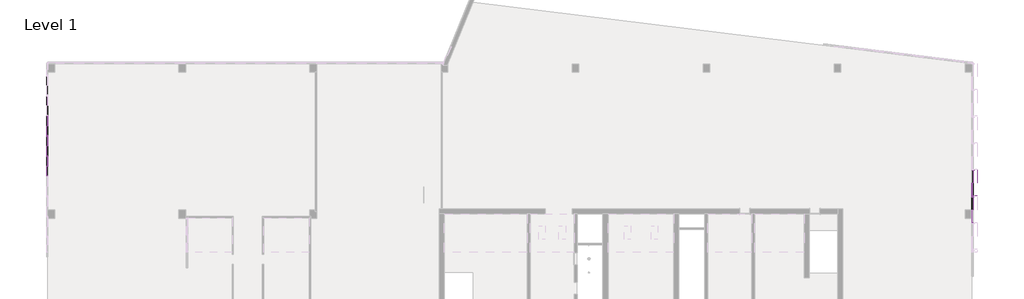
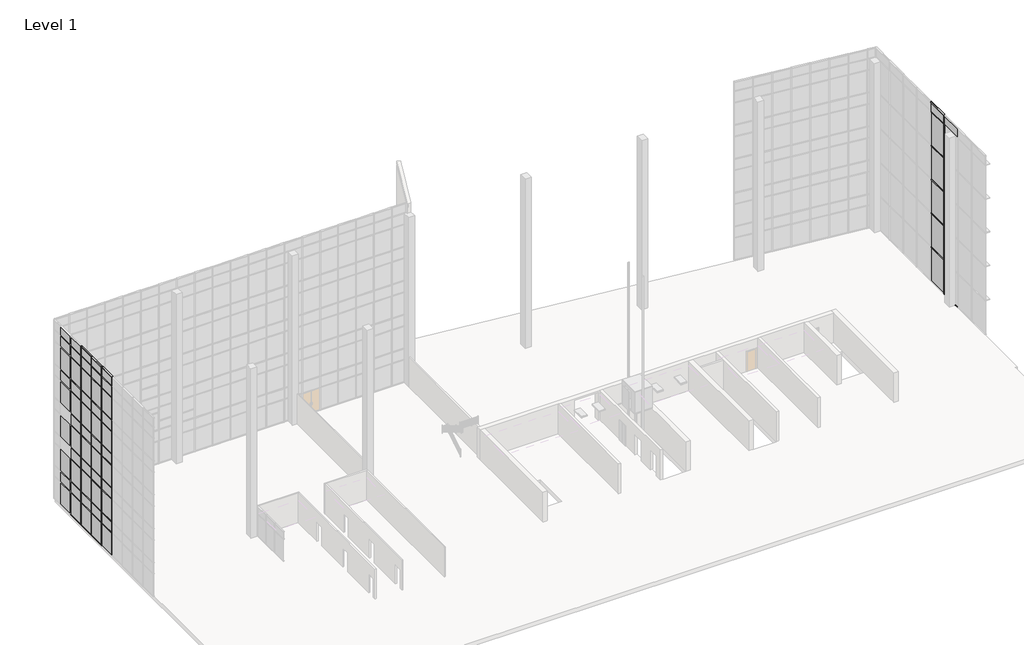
# One storey, part 9 of 23: 69 members, 60 plates.
"""IFC4 building model written with IfcOpenShell, lengths in millimetres."""

from ifc_helpers import new_model, si_unit, origin, place, context, project, spatial, transform, mapped, element, save
from components import member_4178592a, member_a26b4311, member_f92b8aa2, member_810865a4, member_6d5c3e5e, member_90793d7c, member_64b167af, member_9764dd38, system_panel_glazed_14c75400, system_panel_glazed_bb983545, system_panel_solid_5dfe6f83, system_panel_solid_e25e2004, system_panel_solid_b7551183, system_panel_solid_a8b18003

model = new_model("IFC4")

# Units and contexts
model_context = context("Model", 3, world=origin())
ifc_project = project(units=[si_unit("LENGTHUNIT", "METRE", prefix="MILLI")], contexts=[model_context])

# Site, building, storey
site = spatial("IfcSite", under=ifc_project)
building = spatial("IfcBuilding", under=site)
storey = spatial("IfcBuildingStorey", under=building, Name="Level 1", Elevation=0.0)

# Members
placement = place(None, origin())
member_shape = member_4178592a(model_context)
element("IfcMember", 1, ObjectType="Quad Corner Mullion : 5\" x 5\" Quad Corner", at=placement, inside=storey, context=model_context, shape_type="MappedRepresentation", body=[
    mapped(member_shape, transform((15106.8054088, -2083.3335112, 19304.0), x_axis=(0.0, 0.0, 1.0), y_axis=(-1.0, 0.0, 0.0), z_axis=(0.0, -1.0, 0.0))),
])
element("IfcMember", 2, ObjectType="Quad Corner Mullion : 5\" x 5\" Quad Corner", at=placement, inside=storey, context=model_context, shape_type="MappedRepresentation", body=[
    mapped(member_shape, transform((15106.8054088, -2146.8335112, 0.0), x_axis=(0.0, 0.0, -1.0), y_axis=(-1.0, 0.0, 0.0), z_axis=(0.0, 1.0, 0.0))),
])
member_2_shape = member_a26b4311(model_context)
element("IfcMember", 3, ObjectType="Rectangular Mullion : 2.5\" x 18\" rectangular", at=placement, inside=storey, context=model_context, shape_type="MappedRepresentation", body=[
    mapped(member_2_shape, transform((15106.8054088, -2083.3335112, 3666.6228811), x_axis=(0.0, 0.0, 1.0), y_axis=(-1.0, 0.0, 0.0), z_axis=(0.0, -1.0, 0.0))),
])
element("IfcMember", 4, ObjectType="Rectangular Mullion : 2.5\" x 18\" rectangular", at=placement, inside=storey, context=model_context, shape_type="MappedRepresentation", body=[
    mapped(member_2_shape, transform((15106.8054088, -2083.3335112, 7324.2228811), x_axis=(0.0, 0.0, 1.0), y_axis=(-1.0, 0.0, 0.0), z_axis=(0.0, -1.0, 0.0))),
])
element("IfcMember", 5, ObjectType="Rectangular Mullion : 2.5\" x 18\" rectangular", at=placement, inside=storey, context=model_context, shape_type="MappedRepresentation", body=[
    mapped(member_2_shape, transform((15106.8054088, -2083.3335112, 10981.8228811), x_axis=(0.0, 0.0, 1.0), y_axis=(-1.0, 0.0, 0.0), z_axis=(0.0, -1.0, 0.0))),
])
element("IfcMember", 6, ObjectType="Rectangular Mullion : 2.5\" x 18\" rectangular", at=placement, inside=storey, context=model_context, shape_type="MappedRepresentation", body=[
    mapped(member_2_shape, transform((15106.8054088, -2083.3335112, 14639.4228811), x_axis=(0.0, 0.0, 1.0), y_axis=(-1.0, 0.0, 0.0), z_axis=(0.0, -1.0, 0.0))),
])
element("IfcMember", 7, ObjectType="Rectangular Mullion : 2.5\" x 18\" rectangular", at=placement, inside=storey, context=model_context, shape_type="MappedRepresentation", body=[
    mapped(member_2_shape, transform((15106.8054088, -2083.3335112, 18297.0228811), x_axis=(0.0, 0.0, 1.0), y_axis=(-1.0, 0.0, 0.0), z_axis=(0.0, -1.0, 0.0))),
])
member_3_shape = member_f92b8aa2(model_context)
element("IfcMember", 8, ObjectType="Rectangular Mullion : 2.5\" x 5\" rectangular", at=placement, inside=storey, context=model_context, shape_type="MappedRepresentation", body=[
    mapped(member_3_shape, transform((-68724.2599961, 1546.8896508, 18288.0), x_axis=(0.0, 1.0, 0.0), y_axis=(1.0, 0.0, 0.0), z_axis=(0.0, 0.0, -1.0))),
])
element("IfcMember", 9, ObjectType="Rectangular Mullion : 2.5\" x 5\" rectangular", at=placement, inside=storey, context=model_context, shape_type="MappedRepresentation", body=[
    mapped(member_3_shape, transform((-68724.2599961, 3375.6896508, 18288.0), x_axis=(0.0, 1.0, 0.0), y_axis=(1.0, 0.0, 0.0), z_axis=(0.0, 0.0, -1.0))),
])
element("IfcMember", 10, ObjectType="Rectangular Mullion : 2.5\" x 5\" rectangular", at=placement, inside=storey, context=model_context, shape_type="MappedRepresentation", body=[
    mapped(member_3_shape, transform((-68724.2599961, 5204.4896508, 18288.0), x_axis=(0.0, 1.0, 0.0), y_axis=(1.0, 0.0, 0.0), z_axis=(0.0, 0.0, -1.0))),
])
member_4_shape = member_810865a4(model_context)
element("IfcMember", 11, ObjectType="Rectangular Mullion : 2.5\" x 5\" rectangular", at=placement, inside=storey, context=model_context, shape_type="MappedRepresentation", body=[
    mapped(member_4_shape, transform((15106.8054088, -2115.0835112, 3666.6228811), x_axis=(0.0, -1.0, 0.0), y_axis=(-1.0, 0.0, 0.0), z_axis=(0.0, 0.0, -1.0))),
])
element("IfcMember", 12, ObjectType="Rectangular Mullion : 2.5\" x 5\" rectangular", at=placement, inside=storey, context=model_context, shape_type="MappedRepresentation", body=[
    mapped(member_4_shape, transform((15106.8054088, -2115.0835112, 7324.2228811), x_axis=(0.0, -1.0, 0.0), y_axis=(-1.0, 0.0, 0.0), z_axis=(0.0, 0.0, -1.0))),
])
element("IfcMember", 13, ObjectType="Rectangular Mullion : 2.5\" x 5\" rectangular", at=placement, inside=storey, context=model_context, shape_type="MappedRepresentation", body=[
    mapped(member_4_shape, transform((15106.8054088, -2115.0835112, 10981.8228811), x_axis=(0.0, -1.0, 0.0), y_axis=(-1.0, 0.0, 0.0), z_axis=(0.0, 0.0, -1.0))),
])
element("IfcMember", 14, ObjectType="Rectangular Mullion : 2.5\" x 5\" rectangular", at=placement, inside=storey, context=model_context, shape_type="MappedRepresentation", body=[
    mapped(member_4_shape, transform((15106.8054088, -2115.0835112, 14639.4228811), x_axis=(0.0, -1.0, 0.0), y_axis=(-1.0, 0.0, 0.0), z_axis=(0.0, 0.0, -1.0))),
])
element("IfcMember", 15, ObjectType="Rectangular Mullion : 2.5\" x 5\" rectangular", at=placement, inside=storey, context=model_context, shape_type="MappedRepresentation", body=[
    mapped(member_4_shape, transform((-68724.2599961, 1546.8896508, 3657.6), x_axis=(0.0, 1.0, 0.0), y_axis=(1.0, 0.0, 0.0), z_axis=(0.0, 0.0, -1.0))),
])
element("IfcMember", 16, ObjectType="Rectangular Mullion : 2.5\" x 5\" rectangular", at=placement, inside=storey, context=model_context, shape_type="MappedRepresentation", body=[
    mapped(member_4_shape, transform((-68724.2599961, 3375.6896508, 3657.6), x_axis=(0.0, 1.0, 0.0), y_axis=(1.0, 0.0, 0.0), z_axis=(0.0, 0.0, -1.0))),
])
element("IfcMember", 17, ObjectType="Rectangular Mullion : 2.5\" x 5\" rectangular", at=placement, inside=storey, context=model_context, shape_type="MappedRepresentation", body=[
    mapped(member_4_shape, transform((-68724.2599961, 5204.4896508, 3657.6), x_axis=(0.0, 1.0, 0.0), y_axis=(1.0, 0.0, 0.0), z_axis=(0.0, 0.0, -1.0))),
])
element("IfcMember", 18, ObjectType="Rectangular Mullion : 2.5\" x 5\" rectangular", at=placement, inside=storey, context=model_context, shape_type="MappedRepresentation", body=[
    mapped(member_4_shape, transform((-68724.2599961, 1546.8896508, 7315.2), x_axis=(0.0, 1.0, 0.0), y_axis=(1.0, 0.0, 0.0), z_axis=(0.0, 0.0, -1.0))),
])
element("IfcMember", 19, ObjectType="Rectangular Mullion : 2.5\" x 5\" rectangular", at=placement, inside=storey, context=model_context, shape_type="MappedRepresentation", body=[
    mapped(member_4_shape, transform((-68724.2599961, 3375.6896508, 7315.2), x_axis=(0.0, 1.0, 0.0), y_axis=(1.0, 0.0, 0.0), z_axis=(0.0, 0.0, -1.0))),
])
element("IfcMember", 20, ObjectType="Rectangular Mullion : 2.5\" x 5\" rectangular", at=placement, inside=storey, context=model_context, shape_type="MappedRepresentation", body=[
    mapped(member_4_shape, transform((-68724.2599961, 5204.4896508, 7315.2), x_axis=(0.0, 1.0, 0.0), y_axis=(1.0, 0.0, 0.0), z_axis=(0.0, 0.0, -1.0))),
])
element("IfcMember", 21, ObjectType="Rectangular Mullion : 2.5\" x 5\" rectangular", at=placement, inside=storey, context=model_context, shape_type="MappedRepresentation", body=[
    mapped(member_4_shape, transform((-68724.2599961, 1546.8896508, 10972.8), x_axis=(0.0, 1.0, 0.0), y_axis=(1.0, 0.0, 0.0), z_axis=(0.0, 0.0, -1.0))),
])
element("IfcMember", 22, ObjectType="Rectangular Mullion : 2.5\" x 5\" rectangular", at=placement, inside=storey, context=model_context, shape_type="MappedRepresentation", body=[
    mapped(member_4_shape, transform((-68724.2599961, 3375.6896508, 10972.8), x_axis=(0.0, 1.0, 0.0), y_axis=(1.0, 0.0, 0.0), z_axis=(0.0, 0.0, -1.0))),
])
element("IfcMember", 23, ObjectType="Rectangular Mullion : 2.5\" x 5\" rectangular", at=placement, inside=storey, context=model_context, shape_type="MappedRepresentation", body=[
    mapped(member_4_shape, transform((-68724.2599961, 5204.4896508, 10972.8), x_axis=(0.0, 1.0, 0.0), y_axis=(1.0, 0.0, 0.0), z_axis=(0.0, 0.0, -1.0))),
])
element("IfcMember", 24, ObjectType="Rectangular Mullion : 2.5\" x 5\" rectangular", at=placement, inside=storey, context=model_context, shape_type="MappedRepresentation", body=[
    mapped(member_4_shape, transform((-68724.2599961, 1546.8896508, 14630.4), x_axis=(0.0, 1.0, 0.0), y_axis=(1.0, 0.0, 0.0), z_axis=(0.0, 0.0, -1.0))),
])
element("IfcMember", 25, ObjectType="Rectangular Mullion : 2.5\" x 5\" rectangular", at=placement, inside=storey, context=model_context, shape_type="MappedRepresentation", body=[
    mapped(member_4_shape, transform((-68724.2599961, 3375.6896508, 14630.4), x_axis=(0.0, 1.0, 0.0), y_axis=(1.0, 0.0, 0.0), z_axis=(0.0, 0.0, -1.0))),
])
element("IfcMember", 26, ObjectType="Rectangular Mullion : 2.5\" x 5\" rectangular", at=placement, inside=storey, context=model_context, shape_type="MappedRepresentation", body=[
    mapped(member_4_shape, transform((-68724.2599961, 5204.4896508, 14630.4), x_axis=(0.0, 1.0, 0.0), y_axis=(1.0, 0.0, 0.0), z_axis=(0.0, 0.0, -1.0))),
])
member_5_shape = member_6d5c3e5e(model_context)
element("IfcMember", 27, ObjectType="Rectangular Mullion : 2.5\" x 5\" rectangular", at=placement, inside=storey, context=model_context, shape_type="MappedRepresentation", body=[
    mapped(member_5_shape, transform((-68724.2599961, 1515.1396508, 19304.0), x_axis=(0.0, 0.0, 1.0), y_axis=(1.0, 0.0, 0.0), z_axis=(0.0, 1.0, 0.0))),
])
element("IfcMember", 28, ObjectType="Rectangular Mullion : 2.5\" x 5\" rectangular", at=placement, inside=storey, context=model_context, shape_type="MappedRepresentation", body=[
    mapped(member_5_shape, transform((-68724.2599961, 3343.9396508, 19304.0), x_axis=(0.0, 0.0, 1.0), y_axis=(1.0, 0.0, 0.0), z_axis=(0.0, 1.0, 0.0))),
])
element("IfcMember", 29, ObjectType="Rectangular Mullion : 2.5\" x 5\" rectangular", at=placement, inside=storey, context=model_context, shape_type="MappedRepresentation", body=[
    mapped(member_5_shape, transform((-68724.2599961, 5172.7396508, 19304.0), x_axis=(0.0, 0.0, 1.0), y_axis=(1.0, 0.0, 0.0), z_axis=(0.0, 1.0, 0.0))),
])
member_6_shape = member_90793d7c(model_context)
element("IfcMember", 30, ObjectType="Rectangular Mullion : 2.5\" x 5\" rectangular", at=placement, inside=storey, context=model_context, shape_type="MappedRepresentation", body=[
    mapped(member_6_shape, transform((15106.8054088, -2115.0835112, 0.0), x_axis=(0.0, -1.0, 0.0), y_axis=(-1.0, 0.0, 0.0), z_axis=(0.0, 0.0, -1.0))),
])
member_7_shape = member_64b167af(model_context)
element("IfcMember", 31, ObjectType="Rectangular Mullion : 2.5\" x 5\" rectangular", at=placement, inside=storey, context=model_context, shape_type="MappedRepresentation", body=[
    mapped(member_7_shape, transform((15106.8054088, -2115.0835112, 18297.0228811), x_axis=(0.0, -1.0, 0.0), y_axis=(-1.0, 0.0, 0.0), z_axis=(0.0, 0.0, -1.0))),
])
member_8_shape = member_9764dd38(model_context)
element("IfcMember", 32, ObjectType="Rectangular Mullion : 2.5\" x 5\" rectangular", at=placement, inside=storey, context=model_context, shape_type="MappedRepresentation", body=[
    mapped(member_8_shape, transform((-68724.2599961, 7001.5396508, 17068.8), x_axis=(0.0, 0.0, 1.0), y_axis=(1.0, 0.0, 0.0), z_axis=(0.0, 1.0, 0.0))),
])
element("IfcMember", 33, ObjectType="Rectangular Mullion : 2.5\" x 5\" rectangular", at=placement, inside=storey, context=model_context, shape_type="MappedRepresentation", body=[
    mapped(member_8_shape, transform((-68724.2599961, 5172.7396508, 17068.8), x_axis=(0.0, 0.0, 1.0), y_axis=(1.0, 0.0, 0.0), z_axis=(0.0, 1.0, 0.0))),
])
element("IfcMember", 34, ObjectType="Rectangular Mullion : 2.5\" x 5\" rectangular", at=placement, inside=storey, context=model_context, shape_type="MappedRepresentation", body=[
    mapped(member_8_shape, transform((-68724.2599961, 3343.9396508, 17068.8), x_axis=(0.0, 0.0, 1.0), y_axis=(1.0, 0.0, 0.0), z_axis=(0.0, 1.0, 0.0))),
])
element("IfcMember", 35, ObjectType="Rectangular Mullion : 2.5\" x 5\" rectangular", at=placement, inside=storey, context=model_context, shape_type="MappedRepresentation", body=[
    mapped(member_8_shape, transform((-68724.2599961, 1515.1396508, 17068.8), x_axis=(0.0, 0.0, 1.0), y_axis=(1.0, 0.0, 0.0), z_axis=(0.0, 1.0, 0.0))),
])
element("IfcMember", 36, ObjectType="Rectangular Mullion : 2.5\" x 5\" rectangular", at=placement, inside=storey, context=model_context, shape_type="MappedRepresentation", body=[
    mapped(member_8_shape, transform((-68724.2599961, 7001.5396508, 13411.2), x_axis=(0.0, 0.0, 1.0), y_axis=(1.0, 0.0, 0.0), z_axis=(0.0, 1.0, 0.0))),
])
element("IfcMember", 37, ObjectType="Rectangular Mullion : 2.5\" x 5\" rectangular", at=placement, inside=storey, context=model_context, shape_type="MappedRepresentation", body=[
    mapped(member_8_shape, transform((-68724.2599961, 5172.7396508, 13411.2), x_axis=(0.0, 0.0, 1.0), y_axis=(1.0, 0.0, 0.0), z_axis=(0.0, 1.0, 0.0))),
])
element("IfcMember", 38, ObjectType="Rectangular Mullion : 2.5\" x 5\" rectangular", at=placement, inside=storey, context=model_context, shape_type="MappedRepresentation", body=[
    mapped(member_8_shape, transform((-68724.2599961, 3343.9396508, 13411.2), x_axis=(0.0, 0.0, 1.0), y_axis=(1.0, 0.0, 0.0), z_axis=(0.0, 1.0, 0.0))),
])
element("IfcMember", 39, ObjectType="Rectangular Mullion : 2.5\" x 5\" rectangular", at=placement, inside=storey, context=model_context, shape_type="MappedRepresentation", body=[
    mapped(member_8_shape, transform((-68724.2599961, 1515.1396508, 13411.2), x_axis=(0.0, 0.0, 1.0), y_axis=(1.0, 0.0, 0.0), z_axis=(0.0, 1.0, 0.0))),
])
element("IfcMember", 40, ObjectType="Rectangular Mullion : 2.5\" x 5\" rectangular", at=placement, inside=storey, context=model_context, shape_type="MappedRepresentation", body=[
    mapped(member_8_shape, transform((-68724.2599961, 5172.7396508, 9753.6), x_axis=(0.0, 0.0, 1.0), y_axis=(1.0, 0.0, 0.0), z_axis=(0.0, 1.0, 0.0))),
])
element("IfcMember", 41, ObjectType="Rectangular Mullion : 2.5\" x 5\" rectangular", at=placement, inside=storey, context=model_context, shape_type="MappedRepresentation", body=[
    mapped(member_8_shape, transform((-68724.2599961, 3343.9396508, 9753.6), x_axis=(0.0, 0.0, 1.0), y_axis=(1.0, 0.0, 0.0), z_axis=(0.0, 1.0, 0.0))),
])
element("IfcMember", 42, ObjectType="Rectangular Mullion : 2.5\" x 5\" rectangular", at=placement, inside=storey, context=model_context, shape_type="MappedRepresentation", body=[
    mapped(member_8_shape, transform((-68724.2599961, 1515.1396508, 9753.6), x_axis=(0.0, 0.0, 1.0), y_axis=(1.0, 0.0, 0.0), z_axis=(0.0, 1.0, 0.0))),
])
element("IfcMember", 43, ObjectType="Rectangular Mullion : 2.5\" x 5\" rectangular", at=placement, inside=storey, context=model_context, shape_type="MappedRepresentation", body=[
    mapped(member_8_shape, transform((-68724.2599961, 5172.7396508, 6096.0), x_axis=(0.0, 0.0, 1.0), y_axis=(1.0, 0.0, 0.0), z_axis=(0.0, 1.0, 0.0))),
])
element("IfcMember", 44, ObjectType="Rectangular Mullion : 2.5\" x 5\" rectangular", at=placement, inside=storey, context=model_context, shape_type="MappedRepresentation", body=[
    mapped(member_8_shape, transform((-68724.2599961, 3343.9396508, 6096.0), x_axis=(0.0, 0.0, 1.0), y_axis=(1.0, 0.0, 0.0), z_axis=(0.0, 1.0, 0.0))),
])
element("IfcMember", 45, ObjectType="Rectangular Mullion : 2.5\" x 5\" rectangular", at=placement, inside=storey, context=model_context, shape_type="MappedRepresentation", body=[
    mapped(member_8_shape, transform((-68724.2599961, 1515.1396508, 6096.0), x_axis=(0.0, 0.0, 1.0), y_axis=(1.0, 0.0, 0.0), z_axis=(0.0, 1.0, 0.0))),
])
element("IfcMember", 46, ObjectType="Rectangular Mullion : 2.5\" x 5\" rectangular", at=placement, inside=storey, context=model_context, shape_type="MappedRepresentation", body=[
    mapped(member_8_shape, transform((-68724.2599961, 5172.7396508, 2470.15), x_axis=(0.0, 0.0, 1.0), y_axis=(1.0, 0.0, 0.0), z_axis=(0.0, 1.0, 0.0))),
])
element("IfcMember", 47, ObjectType="Rectangular Mullion : 2.5\" x 5\" rectangular", at=placement, inside=storey, context=model_context, shape_type="MappedRepresentation", body=[
    mapped(member_8_shape, transform((-68724.2599961, 3343.9396508, 2470.15), x_axis=(0.0, 0.0, 1.0), y_axis=(1.0, 0.0, 0.0), z_axis=(0.0, 1.0, 0.0))),
])
element("IfcMember", 48, ObjectType="Rectangular Mullion : 2.5\" x 5\" rectangular", at=placement, inside=storey, context=model_context, shape_type="MappedRepresentation", body=[
    mapped(member_8_shape, transform((-68724.2599961, 1515.1396508, 2470.15), x_axis=(0.0, 0.0, 1.0), y_axis=(1.0, 0.0, 0.0), z_axis=(0.0, 1.0, 0.0))),
])
element("IfcMember", 49, ObjectType="Rectangular Mullion : 2.5\" x 5\" rectangular", at=placement, inside=storey, context=model_context, shape_type="MappedRepresentation", body=[
    mapped(member_4_shape, transform((-68724.2599961, 1546.8896508, 0.0), x_axis=(0.0, 1.0, 0.0), y_axis=(1.0, 0.0, 0.0), z_axis=(0.0, 0.0, -1.0))),
])
element("IfcMember", 50, ObjectType="Rectangular Mullion : 2.5\" x 5\" rectangular", at=placement, inside=storey, context=model_context, shape_type="MappedRepresentation", body=[
    mapped(member_4_shape, transform((-68724.2599961, 3375.6896508, 0.0), x_axis=(0.0, 1.0, 0.0), y_axis=(1.0, 0.0, 0.0), z_axis=(0.0, 0.0, -1.0))),
])
element("IfcMember", 51, ObjectType="Rectangular Mullion : 2.5\" x 5\" rectangular", at=placement, inside=storey, context=model_context, shape_type="MappedRepresentation", body=[
    mapped(member_4_shape, transform((-68724.2599961, 5204.4896508, 0.0), x_axis=(0.0, 1.0, 0.0), y_axis=(1.0, 0.0, 0.0), z_axis=(0.0, 0.0, -1.0))),
])
element("IfcMember", 52, ObjectType="Rectangular Mullion : 2.5\" x 5\" rectangular", at=placement, inside=storey, context=model_context, shape_type="MappedRepresentation", body=[
    mapped(member_5_shape, transform((-68724.2599961, 1578.6396508, 0.0), x_axis=(0.0, 0.0, -1.0), y_axis=(1.0, 0.0, 0.0), z_axis=(0.0, -1.0, 0.0))),
])
element("IfcMember", 53, ObjectType="Rectangular Mullion : 2.5\" x 5\" rectangular", at=placement, inside=storey, context=model_context, shape_type="MappedRepresentation", body=[
    mapped(member_5_shape, transform((-68724.2599961, 3407.4396508, 0.0), x_axis=(0.0, 0.0, -1.0), y_axis=(1.0, 0.0, 0.0), z_axis=(0.0, -1.0, 0.0))),
])
element("IfcMember", 54, ObjectType="Rectangular Mullion : 2.5\" x 5\" rectangular", at=placement, inside=storey, context=model_context, shape_type="MappedRepresentation", body=[
    mapped(member_5_shape, transform((-68724.2599961, 5236.2396508, 0.0), x_axis=(0.0, 0.0, -1.0), y_axis=(1.0, 0.0, 0.0), z_axis=(0.0, -1.0, 0.0))),
])
element("IfcMember", 55, ObjectType="Rectangular Mullion : 2.5\" x 5\" rectangular", at=placement, inside=storey, context=model_context, shape_type="MappedRepresentation", body=[
    mapped(member_8_shape, transform((-68724.2599961, 1515.1396508, 3657.6), x_axis=(0.0, 0.0, 1.0), y_axis=(1.0, 0.0, 0.0), z_axis=(0.0, 1.0, 0.0))),
])
element("IfcMember", 56, ObjectType="Rectangular Mullion : 2.5\" x 5\" rectangular", at=placement, inside=storey, context=model_context, shape_type="MappedRepresentation", body=[
    mapped(member_8_shape, transform((-68724.2599961, 3343.9396508, 3657.6), x_axis=(0.0, 0.0, 1.0), y_axis=(1.0, 0.0, 0.0), z_axis=(0.0, 1.0, 0.0))),
])
element("IfcMember", 57, ObjectType="Rectangular Mullion : 2.5\" x 5\" rectangular", at=placement, inside=storey, context=model_context, shape_type="MappedRepresentation", body=[
    mapped(member_8_shape, transform((-68724.2599961, 5172.7396508, 3657.6), x_axis=(0.0, 0.0, 1.0), y_axis=(1.0, 0.0, 0.0), z_axis=(0.0, 1.0, 0.0))),
])
element("IfcMember", 58, ObjectType="Rectangular Mullion : 2.5\" x 5\" rectangular", at=placement, inside=storey, context=model_context, shape_type="MappedRepresentation", body=[
    mapped(member_8_shape, transform((-68724.2599961, 1515.1396508, 7315.2), x_axis=(0.0, 0.0, 1.0), y_axis=(1.0, 0.0, 0.0), z_axis=(0.0, 1.0, 0.0))),
])
element("IfcMember", 59, ObjectType="Rectangular Mullion : 2.5\" x 5\" rectangular", at=placement, inside=storey, context=model_context, shape_type="MappedRepresentation", body=[
    mapped(member_8_shape, transform((-68724.2599961, 3343.9396508, 7315.2), x_axis=(0.0, 0.0, 1.0), y_axis=(1.0, 0.0, 0.0), z_axis=(0.0, 1.0, 0.0))),
])
element("IfcMember", 60, ObjectType="Rectangular Mullion : 2.5\" x 5\" rectangular", at=placement, inside=storey, context=model_context, shape_type="MappedRepresentation", body=[
    mapped(member_8_shape, transform((-68724.2599961, 5172.7396508, 7315.2), x_axis=(0.0, 0.0, 1.0), y_axis=(1.0, 0.0, 0.0), z_axis=(0.0, 1.0, 0.0))),
])
element("IfcMember", 61, ObjectType="Rectangular Mullion : 2.5\" x 5\" rectangular", at=placement, inside=storey, context=model_context, shape_type="MappedRepresentation", body=[
    mapped(member_8_shape, transform((-68724.2599961, 1515.1396508, 10972.8), x_axis=(0.0, 0.0, 1.0), y_axis=(1.0, 0.0, 0.0), z_axis=(0.0, 1.0, 0.0))),
])
element("IfcMember", 62, ObjectType="Rectangular Mullion : 2.5\" x 5\" rectangular", at=placement, inside=storey, context=model_context, shape_type="MappedRepresentation", body=[
    mapped(member_8_shape, transform((-68724.2599961, 3343.9396508, 10972.8), x_axis=(0.0, 0.0, 1.0), y_axis=(1.0, 0.0, 0.0), z_axis=(0.0, 1.0, 0.0))),
])
element("IfcMember", 63, ObjectType="Rectangular Mullion : 2.5\" x 5\" rectangular", at=placement, inside=storey, context=model_context, shape_type="MappedRepresentation", body=[
    mapped(member_8_shape, transform((-68724.2599961, 5172.7396508, 10972.8), x_axis=(0.0, 0.0, 1.0), y_axis=(1.0, 0.0, 0.0), z_axis=(0.0, 1.0, 0.0))),
])
element("IfcMember", 64, ObjectType="Rectangular Mullion : 2.5\" x 5\" rectangular", at=placement, inside=storey, context=model_context, shape_type="MappedRepresentation", body=[
    mapped(member_8_shape, transform((-68724.2599961, 1515.1396508, 14630.4), x_axis=(0.0, 0.0, 1.0), y_axis=(1.0, 0.0, 0.0), z_axis=(0.0, 1.0, 0.0))),
])
element("IfcMember", 65, ObjectType="Rectangular Mullion : 2.5\" x 5\" rectangular", at=placement, inside=storey, context=model_context, shape_type="MappedRepresentation", body=[
    mapped(member_8_shape, transform((-68724.2599961, 3343.9396508, 14630.4), x_axis=(0.0, 0.0, 1.0), y_axis=(1.0, 0.0, 0.0), z_axis=(0.0, 1.0, 0.0))),
])
element("IfcMember", 66, ObjectType="Rectangular Mullion : 2.5\" x 5\" rectangular", at=placement, inside=storey, context=model_context, shape_type="MappedRepresentation", body=[
    mapped(member_8_shape, transform((-68724.2599961, 5172.7396508, 14630.4), x_axis=(0.0, 0.0, 1.0), y_axis=(1.0, 0.0, 0.0), z_axis=(0.0, 1.0, 0.0))),
])
element("IfcMember", 67, ObjectType="Rectangular Mullion : 2.5\" x 5\" rectangular", at=placement, inside=storey, context=model_context, shape_type="MappedRepresentation", body=[
    mapped(member_8_shape, transform((-68724.2599961, 1515.1396508, 18288.0), x_axis=(0.0, 0.0, 1.0), y_axis=(1.0, 0.0, 0.0), z_axis=(0.0, 1.0, 0.0))),
])
element("IfcMember", 68, ObjectType="Rectangular Mullion : 2.5\" x 5\" rectangular", at=placement, inside=storey, context=model_context, shape_type="MappedRepresentation", body=[
    mapped(member_8_shape, transform((-68724.2599961, 3343.9396508, 18288.0), x_axis=(0.0, 0.0, 1.0), y_axis=(1.0, 0.0, 0.0), z_axis=(0.0, 1.0, 0.0))),
])
element("IfcMember", 69, ObjectType="Rectangular Mullion : 2.5\" x 5\" rectangular", at=placement, inside=storey, context=model_context, shape_type="MappedRepresentation", body=[
    mapped(member_8_shape, transform((-68724.2599961, 5172.7396508, 18288.0), x_axis=(0.0, 0.0, 1.0), y_axis=(1.0, 0.0, 0.0), z_axis=(0.0, 1.0, 0.0))),
])

# Plates
system_panel_glazed_shape = system_panel_glazed_14c75400(model_context)
element("IfcPlate", 70, ObjectType="System Panel : Glazed", at=placement, inside=storey, context=model_context, shape_type="MappedRepresentation", body=[
    mapped(system_panel_glazed_shape, transform((-68724.2599961, 7947.6896508, 14662.15), x_axis=(0.0, 1.0, 0.0), y_axis=(-1.0, 0.0, 0.0), z_axis=(0.0, 0.0, 1.0))),
])
element("IfcPlate", 71, ObjectType="System Panel : Glazed", at=placement, inside=storey, context=model_context, shape_type="MappedRepresentation", body=[
    mapped(system_panel_glazed_shape, transform((-68724.2599961, 6118.8896508, 14662.15), x_axis=(0.0, 1.0, 0.0), y_axis=(-1.0, 0.0, 0.0), z_axis=(0.0, 0.0, 1.0))),
])
element("IfcPlate", 72, ObjectType="System Panel : Glazed", at=placement, inside=storey, context=model_context, shape_type="MappedRepresentation", body=[
    mapped(system_panel_glazed_shape, transform((-68724.2599961, 4290.0896508, 14662.15), x_axis=(0.0, 1.0, 0.0), y_axis=(-1.0, 0.0, 0.0), z_axis=(0.0, 0.0, 1.0))),
])
element("IfcPlate", 73, ObjectType="System Panel : Glazed", at=placement, inside=storey, context=model_context, shape_type="MappedRepresentation", body=[
    mapped(system_panel_glazed_shape, transform((-68724.2599961, 2461.2896508, 14662.15), x_axis=(0.0, 1.0, 0.0), y_axis=(-1.0, 0.0, 0.0), z_axis=(0.0, 0.0, 1.0))),
])
element("IfcPlate", 74, ObjectType="System Panel : Glazed", at=placement, inside=storey, context=model_context, shape_type="MappedRepresentation", body=[
    mapped(system_panel_glazed_shape, transform((-68724.2599961, 632.4896508, 14662.15), x_axis=(0.0, 1.0, 0.0), y_axis=(-1.0, 0.0, 0.0), z_axis=(0.0, 0.0, 1.0))),
])
element("IfcPlate", 75, ObjectType="System Panel : Glazed", at=placement, inside=storey, context=model_context, shape_type="MappedRepresentation", body=[
    mapped(system_panel_glazed_shape, transform((-68724.2599961, 7947.6896508, 11004.55), x_axis=(0.0, 1.0, 0.0), y_axis=(-1.0, 0.0, 0.0), z_axis=(0.0, 0.0, 1.0))),
])
element("IfcPlate", 76, ObjectType="System Panel : Glazed", at=placement, inside=storey, context=model_context, shape_type="MappedRepresentation", body=[
    mapped(system_panel_glazed_shape, transform((-68724.2599961, 6118.8896508, 11004.55), x_axis=(0.0, 1.0, 0.0), y_axis=(-1.0, 0.0, 0.0), z_axis=(0.0, 0.0, 1.0))),
])
element("IfcPlate", 77, ObjectType="System Panel : Glazed", at=placement, inside=storey, context=model_context, shape_type="MappedRepresentation", body=[
    mapped(system_panel_glazed_shape, transform((-68724.2599961, 4290.0896508, 11004.55), x_axis=(0.0, 1.0, 0.0), y_axis=(-1.0, 0.0, 0.0), z_axis=(0.0, 0.0, 1.0))),
])
element("IfcPlate", 78, ObjectType="System Panel : Glazed", at=placement, inside=storey, context=model_context, shape_type="MappedRepresentation", body=[
    mapped(system_panel_glazed_shape, transform((-68724.2599961, 2461.2896508, 11004.55), x_axis=(0.0, 1.0, 0.0), y_axis=(-1.0, 0.0, 0.0), z_axis=(0.0, 0.0, 1.0))),
])
element("IfcPlate", 79, ObjectType="System Panel : Glazed", at=placement, inside=storey, context=model_context, shape_type="MappedRepresentation", body=[
    mapped(system_panel_glazed_shape, transform((-68724.2599961, 632.4896508, 11004.55), x_axis=(0.0, 1.0, 0.0), y_axis=(-1.0, 0.0, 0.0), z_axis=(0.0, 0.0, 1.0))),
])
element("IfcPlate", 80, ObjectType="System Panel : Glazed", at=placement, inside=storey, context=model_context, shape_type="MappedRepresentation", body=[
    mapped(system_panel_glazed_shape, transform((-68724.2599961, 7947.6896508, 7346.95), x_axis=(0.0, 1.0, 0.0), y_axis=(-1.0, 0.0, 0.0), z_axis=(0.0, 0.0, 1.0))),
])
element("IfcPlate", 81, ObjectType="System Panel : Glazed", at=placement, inside=storey, context=model_context, shape_type="MappedRepresentation", body=[
    mapped(system_panel_glazed_shape, transform((-68724.2599961, 6118.8896508, 7346.95), x_axis=(0.0, 1.0, 0.0), y_axis=(-1.0, 0.0, 0.0), z_axis=(0.0, 0.0, 1.0))),
])
element("IfcPlate", 82, ObjectType="System Panel : Glazed", at=placement, inside=storey, context=model_context, shape_type="MappedRepresentation", body=[
    mapped(system_panel_glazed_shape, transform((-68724.2599961, 4290.0896508, 7346.95), x_axis=(0.0, 1.0, 0.0), y_axis=(-1.0, 0.0, 0.0), z_axis=(0.0, 0.0, 1.0))),
])
element("IfcPlate", 83, ObjectType="System Panel : Glazed", at=placement, inside=storey, context=model_context, shape_type="MappedRepresentation", body=[
    mapped(system_panel_glazed_shape, transform((-68724.2599961, 2461.2896508, 7346.95), x_axis=(0.0, 1.0, 0.0), y_axis=(-1.0, 0.0, 0.0), z_axis=(0.0, 0.0, 1.0))),
])
element("IfcPlate", 84, ObjectType="System Panel : Glazed", at=placement, inside=storey, context=model_context, shape_type="MappedRepresentation", body=[
    mapped(system_panel_glazed_shape, transform((-68724.2599961, 632.4896508, 7346.95), x_axis=(0.0, 1.0, 0.0), y_axis=(-1.0, 0.0, 0.0), z_axis=(0.0, 0.0, 1.0))),
])
element("IfcPlate", 85, ObjectType="System Panel : Glazed", at=placement, inside=storey, context=model_context, shape_type="MappedRepresentation", body=[
    mapped(system_panel_glazed_shape, transform((-68724.2599961, 7947.6896508, 3689.35), x_axis=(0.0, 1.0, 0.0), y_axis=(-1.0, 0.0, 0.0), z_axis=(0.0, 0.0, 1.0))),
])
element("IfcPlate", 86, ObjectType="System Panel : Glazed", at=placement, inside=storey, context=model_context, shape_type="MappedRepresentation", body=[
    mapped(system_panel_glazed_shape, transform((-68724.2599961, 6118.8896508, 3689.35), x_axis=(0.0, 1.0, 0.0), y_axis=(-1.0, 0.0, 0.0), z_axis=(0.0, 0.0, 1.0))),
])
element("IfcPlate", 87, ObjectType="System Panel : Glazed", at=placement, inside=storey, context=model_context, shape_type="MappedRepresentation", body=[
    mapped(system_panel_glazed_shape, transform((-68724.2599961, 4290.0896508, 3689.35), x_axis=(0.0, 1.0, 0.0), y_axis=(-1.0, 0.0, 0.0), z_axis=(0.0, 0.0, 1.0))),
])
element("IfcPlate", 88, ObjectType="System Panel : Glazed", at=placement, inside=storey, context=model_context, shape_type="MappedRepresentation", body=[
    mapped(system_panel_glazed_shape, transform((-68724.2599961, 2461.2896508, 3689.35), x_axis=(0.0, 1.0, 0.0), y_axis=(-1.0, 0.0, 0.0), z_axis=(0.0, 0.0, 1.0))),
])
element("IfcPlate", 89, ObjectType="System Panel : Glazed", at=placement, inside=storey, context=model_context, shape_type="MappedRepresentation", body=[
    mapped(system_panel_glazed_shape, transform((-68724.2599961, 632.4896508, 3689.35), x_axis=(0.0, 1.0, 0.0), y_axis=(-1.0, 0.0, 0.0), z_axis=(0.0, 0.0, 1.0))),
])
element("IfcPlate", 90, ObjectType="System Panel : Glazed", at=placement, inside=storey, context=model_context, shape_type="MappedRepresentation", body=[
    mapped(system_panel_glazed_shape, transform((-68724.2599961, 7947.6896508, 63.5), x_axis=(0.0, 1.0, 0.0), y_axis=(-1.0, 0.0, 0.0), z_axis=(0.0, 0.0, 1.0))),
])
element("IfcPlate", 91, ObjectType="System Panel : Glazed", at=placement, inside=storey, context=model_context, shape_type="MappedRepresentation", body=[
    mapped(system_panel_glazed_shape, transform((-68724.2599961, 6118.8896508, 63.5), x_axis=(0.0, 1.0, 0.0), y_axis=(-1.0, 0.0, 0.0), z_axis=(0.0, 0.0, 1.0))),
])
element("IfcPlate", 92, ObjectType="System Panel : Glazed", at=placement, inside=storey, context=model_context, shape_type="MappedRepresentation", body=[
    mapped(system_panel_glazed_shape, transform((-68724.2599961, 4290.0896508, 63.5), x_axis=(0.0, 1.0, 0.0), y_axis=(-1.0, 0.0, 0.0), z_axis=(0.0, 0.0, 1.0))),
])
element("IfcPlate", 93, ObjectType="System Panel : Glazed", at=placement, inside=storey, context=model_context, shape_type="MappedRepresentation", body=[
    mapped(system_panel_glazed_shape, transform((-68724.2599961, 2461.2896508, 63.5), x_axis=(0.0, 1.0, 0.0), y_axis=(-1.0, 0.0, 0.0), z_axis=(0.0, 0.0, 1.0))),
])
element("IfcPlate", 94, ObjectType="System Panel : Glazed", at=placement, inside=storey, context=model_context, shape_type="MappedRepresentation", body=[
    mapped(system_panel_glazed_shape, transform((-68724.2599961, 632.4896508, 63.5), x_axis=(0.0, 1.0, 0.0), y_axis=(-1.0, 0.0, 0.0), z_axis=(0.0, 0.0, 1.0))),
])
system_panel_glazed_2_shape = system_panel_glazed_bb983545(model_context)
element("IfcPlate", 95, ObjectType="System Panel : Glazed", at=placement, inside=storey, context=model_context, shape_type="MappedRepresentation", body=[
    mapped(system_panel_glazed_2_shape, transform((15106.8054088, -906.0045774, 40.7728811), x_axis=(0.0, -1.0, 0.0), y_axis=(1.0, 0.0, 0.0), z_axis=(0.0, 0.0, 1.0))),
])
element("IfcPlate", 96, ObjectType="System Panel : Glazed", at=placement, inside=storey, context=model_context, shape_type="MappedRepresentation", body=[
    mapped(system_panel_glazed_2_shape, transform((15106.8054088, -906.0045774, 3698.3728811), x_axis=(0.0, -1.0, 0.0), y_axis=(1.0, 0.0, 0.0), z_axis=(0.0, 0.0, 1.0))),
])
element("IfcPlate", 97, ObjectType="System Panel : Glazed", at=placement, inside=storey, context=model_context, shape_type="MappedRepresentation", body=[
    mapped(system_panel_glazed_2_shape, transform((15106.8054088, -906.0045774, 7355.9728811), x_axis=(0.0, -1.0, 0.0), y_axis=(1.0, 0.0, 0.0), z_axis=(0.0, 0.0, 1.0))),
])
element("IfcPlate", 98, ObjectType="System Panel : Glazed", at=placement, inside=storey, context=model_context, shape_type="MappedRepresentation", body=[
    mapped(system_panel_glazed_2_shape, transform((15106.8054088, -906.0045774, 11013.5728811), x_axis=(0.0, -1.0, 0.0), y_axis=(1.0, 0.0, 0.0), z_axis=(0.0, 0.0, 1.0))),
])
element("IfcPlate", 99, ObjectType="System Panel : Glazed", at=placement, inside=storey, context=model_context, shape_type="MappedRepresentation", body=[
    mapped(system_panel_glazed_2_shape, transform((15106.8054088, -906.0045774, 14671.1728811), x_axis=(0.0, -1.0, 0.0), y_axis=(1.0, 0.0, 0.0), z_axis=(0.0, 0.0, 1.0))),
])
system_panel_solid_shape = system_panel_solid_5dfe6f83(model_context)
element("IfcPlate", 100, ObjectType="System Panel : Solid", at=placement, inside=storey, context=model_context, shape_type="MappedRepresentation", body=[
    mapped(system_panel_solid_shape, transform((-68724.2599961, 632.4896508, 18319.75), x_axis=(0.0, 1.0, 0.0), y_axis=(-1.0, 0.0, 0.0), z_axis=(0.0, 0.0, 1.0))),
])
element("IfcPlate", 101, ObjectType="System Panel : Solid", at=placement, inside=storey, context=model_context, shape_type="MappedRepresentation", body=[
    mapped(system_panel_solid_shape, transform((-68724.2599961, 2461.2896508, 18319.75), x_axis=(0.0, 1.0, 0.0), y_axis=(-1.0, 0.0, 0.0), z_axis=(0.0, 0.0, 1.0))),
])
element("IfcPlate", 102, ObjectType="System Panel : Solid", at=placement, inside=storey, context=model_context, shape_type="MappedRepresentation", body=[
    mapped(system_panel_solid_shape, transform((-68724.2599961, 4290.0896508, 18319.75), x_axis=(0.0, 1.0, 0.0), y_axis=(-1.0, 0.0, 0.0), z_axis=(0.0, 0.0, 1.0))),
])
element("IfcPlate", 103, ObjectType="System Panel : Solid", at=placement, inside=storey, context=model_context, shape_type="MappedRepresentation", body=[
    mapped(system_panel_solid_shape, transform((-68724.2599961, 6118.8896508, 18319.75), x_axis=(0.0, 1.0, 0.0), y_axis=(-1.0, 0.0, 0.0), z_axis=(0.0, 0.0, 1.0))),
])
element("IfcPlate", 104, ObjectType="System Panel : Solid", at=placement, inside=storey, context=model_context, shape_type="MappedRepresentation", body=[
    mapped(system_panel_solid_shape, transform((-68724.2599961, 7947.6896508, 18319.75), x_axis=(0.0, 1.0, 0.0), y_axis=(-1.0, 0.0, 0.0), z_axis=(0.0, 0.0, 1.0))),
])
system_panel_solid_2_shape = system_panel_solid_e25e2004(model_context)
element("IfcPlate", 105, ObjectType="System Panel : Solid", at=placement, inside=storey, context=model_context, shape_type="MappedRepresentation", body=[
    mapped(system_panel_solid_2_shape, transform((-68724.2599961, 7947.6896508, 17100.55), x_axis=(0.0, 1.0, 0.0), y_axis=(-1.0, 0.0, 0.0), z_axis=(0.0, 0.0, 1.0))),
])
element("IfcPlate", 106, ObjectType="System Panel : Solid", at=placement, inside=storey, context=model_context, shape_type="MappedRepresentation", body=[
    mapped(system_panel_solid_2_shape, transform((-68724.2599961, 6118.8896508, 17100.55), x_axis=(0.0, 1.0, 0.0), y_axis=(-1.0, 0.0, 0.0), z_axis=(0.0, 0.0, 1.0))),
])
element("IfcPlate", 107, ObjectType="System Panel : Solid", at=placement, inside=storey, context=model_context, shape_type="MappedRepresentation", body=[
    mapped(system_panel_solid_2_shape, transform((-68724.2599961, 4290.0896508, 17100.55), x_axis=(0.0, 1.0, 0.0), y_axis=(-1.0, 0.0, 0.0), z_axis=(0.0, 0.0, 1.0))),
])
element("IfcPlate", 108, ObjectType="System Panel : Solid", at=placement, inside=storey, context=model_context, shape_type="MappedRepresentation", body=[
    mapped(system_panel_solid_2_shape, transform((-68724.2599961, 2461.2896508, 17100.55), x_axis=(0.0, 1.0, 0.0), y_axis=(-1.0, 0.0, 0.0), z_axis=(0.0, 0.0, 1.0))),
])
element("IfcPlate", 109, ObjectType="System Panel : Solid", at=placement, inside=storey, context=model_context, shape_type="MappedRepresentation", body=[
    mapped(system_panel_solid_2_shape, transform((-68724.2599961, 632.4896508, 17100.55), x_axis=(0.0, 1.0, 0.0), y_axis=(-1.0, 0.0, 0.0), z_axis=(0.0, 0.0, 1.0))),
])
element("IfcPlate", 110, ObjectType="System Panel : Solid", at=placement, inside=storey, context=model_context, shape_type="MappedRepresentation", body=[
    mapped(system_panel_solid_2_shape, transform((-68724.2599961, 7947.6896508, 13442.95), x_axis=(0.0, 1.0, 0.0), y_axis=(-1.0, 0.0, 0.0), z_axis=(0.0, 0.0, 1.0))),
])
element("IfcPlate", 111, ObjectType="System Panel : Solid", at=placement, inside=storey, context=model_context, shape_type="MappedRepresentation", body=[
    mapped(system_panel_solid_2_shape, transform((-68724.2599961, 6118.8896508, 13442.95), x_axis=(0.0, 1.0, 0.0), y_axis=(-1.0, 0.0, 0.0), z_axis=(0.0, 0.0, 1.0))),
])
element("IfcPlate", 112, ObjectType="System Panel : Solid", at=placement, inside=storey, context=model_context, shape_type="MappedRepresentation", body=[
    mapped(system_panel_solid_2_shape, transform((-68724.2599961, 4290.0896508, 13442.95), x_axis=(0.0, 1.0, 0.0), y_axis=(-1.0, 0.0, 0.0), z_axis=(0.0, 0.0, 1.0))),
])
element("IfcPlate", 113, ObjectType="System Panel : Solid", at=placement, inside=storey, context=model_context, shape_type="MappedRepresentation", body=[
    mapped(system_panel_solid_2_shape, transform((-68724.2599961, 2461.2896508, 13442.95), x_axis=(0.0, 1.0, 0.0), y_axis=(-1.0, 0.0, 0.0), z_axis=(0.0, 0.0, 1.0))),
])
element("IfcPlate", 114, ObjectType="System Panel : Solid", at=placement, inside=storey, context=model_context, shape_type="MappedRepresentation", body=[
    mapped(system_panel_solid_2_shape, transform((-68724.2599961, 632.4896508, 13442.95), x_axis=(0.0, 1.0, 0.0), y_axis=(-1.0, 0.0, 0.0), z_axis=(0.0, 0.0, 1.0))),
])
element("IfcPlate", 115, ObjectType="System Panel : Solid", at=placement, inside=storey, context=model_context, shape_type="MappedRepresentation", body=[
    mapped(system_panel_solid_2_shape, transform((-68724.2599961, 6118.8896508, 9785.35), x_axis=(0.0, 1.0, 0.0), y_axis=(-1.0, 0.0, 0.0), z_axis=(0.0, 0.0, 1.0))),
])
element("IfcPlate", 116, ObjectType="System Panel : Solid", at=placement, inside=storey, context=model_context, shape_type="MappedRepresentation", body=[
    mapped(system_panel_solid_2_shape, transform((-68724.2599961, 4290.0896508, 9785.35), x_axis=(0.0, 1.0, 0.0), y_axis=(-1.0, 0.0, 0.0), z_axis=(0.0, 0.0, 1.0))),
])
element("IfcPlate", 117, ObjectType="System Panel : Solid", at=placement, inside=storey, context=model_context, shape_type="MappedRepresentation", body=[
    mapped(system_panel_solid_2_shape, transform((-68724.2599961, 2461.2896508, 9785.35), x_axis=(0.0, 1.0, 0.0), y_axis=(-1.0, 0.0, 0.0), z_axis=(0.0, 0.0, 1.0))),
])
element("IfcPlate", 118, ObjectType="System Panel : Solid", at=placement, inside=storey, context=model_context, shape_type="MappedRepresentation", body=[
    mapped(system_panel_solid_2_shape, transform((-68724.2599961, 632.4896508, 9785.35), x_axis=(0.0, 1.0, 0.0), y_axis=(-1.0, 0.0, 0.0), z_axis=(0.0, 0.0, 1.0))),
])
element("IfcPlate", 119, ObjectType="System Panel : Solid", at=placement, inside=storey, context=model_context, shape_type="MappedRepresentation", body=[
    mapped(system_panel_solid_2_shape, transform((-68724.2599961, 6118.8896508, 6127.75), x_axis=(0.0, 1.0, 0.0), y_axis=(-1.0, 0.0, 0.0), z_axis=(0.0, 0.0, 1.0))),
])
element("IfcPlate", 120, ObjectType="System Panel : Solid", at=placement, inside=storey, context=model_context, shape_type="MappedRepresentation", body=[
    mapped(system_panel_solid_2_shape, transform((-68724.2599961, 4290.0896508, 6127.75), x_axis=(0.0, 1.0, 0.0), y_axis=(-1.0, 0.0, 0.0), z_axis=(0.0, 0.0, 1.0))),
])
element("IfcPlate", 121, ObjectType="System Panel : Solid", at=placement, inside=storey, context=model_context, shape_type="MappedRepresentation", body=[
    mapped(system_panel_solid_2_shape, transform((-68724.2599961, 2461.2896508, 6127.75), x_axis=(0.0, 1.0, 0.0), y_axis=(-1.0, 0.0, 0.0), z_axis=(0.0, 0.0, 1.0))),
])
element("IfcPlate", 122, ObjectType="System Panel : Solid", at=placement, inside=storey, context=model_context, shape_type="MappedRepresentation", body=[
    mapped(system_panel_solid_2_shape, transform((-68724.2599961, 632.4896508, 6127.75), x_axis=(0.0, 1.0, 0.0), y_axis=(-1.0, 0.0, 0.0), z_axis=(0.0, 0.0, 1.0))),
])
system_panel_solid_3_shape = system_panel_solid_b7551183(model_context)
element("IfcPlate", 123, ObjectType="System Panel : Solid", at=placement, inside=storey, context=model_context, shape_type="MappedRepresentation", body=[
    mapped(system_panel_solid_3_shape, transform((-68724.2599961, 7947.6896508, 2501.9), x_axis=(0.0, 1.0, 0.0), y_axis=(-1.0, 0.0, 0.0), z_axis=(0.0, 0.0, 1.0))),
])
element("IfcPlate", 124, ObjectType="System Panel : Solid", at=placement, inside=storey, context=model_context, shape_type="MappedRepresentation", body=[
    mapped(system_panel_solid_3_shape, transform((-68724.2599961, 6118.8896508, 2501.9), x_axis=(0.0, 1.0, 0.0), y_axis=(-1.0, 0.0, 0.0), z_axis=(0.0, 0.0, 1.0))),
])
element("IfcPlate", 125, ObjectType="System Panel : Solid", at=placement, inside=storey, context=model_context, shape_type="MappedRepresentation", body=[
    mapped(system_panel_solid_3_shape, transform((-68724.2599961, 4290.0896508, 2501.9), x_axis=(0.0, 1.0, 0.0), y_axis=(-1.0, 0.0, 0.0), z_axis=(0.0, 0.0, 1.0))),
])
element("IfcPlate", 126, ObjectType="System Panel : Solid", at=placement, inside=storey, context=model_context, shape_type="MappedRepresentation", body=[
    mapped(system_panel_solid_3_shape, transform((-68724.2599961, 2461.2896508, 2501.9), x_axis=(0.0, 1.0, 0.0), y_axis=(-1.0, 0.0, 0.0), z_axis=(0.0, 0.0, 1.0))),
])
element("IfcPlate", 127, ObjectType="System Panel : Solid", at=placement, inside=storey, context=model_context, shape_type="MappedRepresentation", body=[
    mapped(system_panel_solid_3_shape, transform((-68724.2599961, 632.4896508, 2501.9), x_axis=(0.0, 1.0, 0.0), y_axis=(-1.0, 0.0, 0.0), z_axis=(0.0, 0.0, 1.0))),
])
system_panel_solid_4_shape = system_panel_solid_a8b18003(model_context)
element("IfcPlate", 128, ObjectType="System Panel : Solid", at=placement, inside=storey, context=model_context, shape_type="MappedRepresentation", body=[
    mapped(system_panel_solid_4_shape, transform((15106.8054088, -906.0045774, 18328.7728811), x_axis=(0.0, -1.0, 0.0), y_axis=(1.0, 0.0, 0.0), z_axis=(0.0, 0.0, 1.0))),
])
element("IfcPlate", 129, ObjectType="System Panel : Solid", at=placement, inside=storey, context=model_context, shape_type="MappedRepresentation", body=[
    mapped(system_panel_solid_4_shape, transform((15106.8054088, -3324.162445, 18328.7728811), x_axis=(0.0, -1.0, 0.0), y_axis=(1.0, 0.0, 0.0), z_axis=(0.0, 0.0, 1.0))),
])

save(model, "model.ifc")
